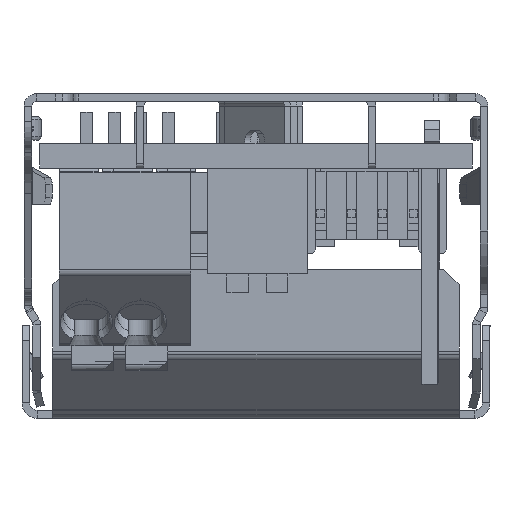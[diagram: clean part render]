
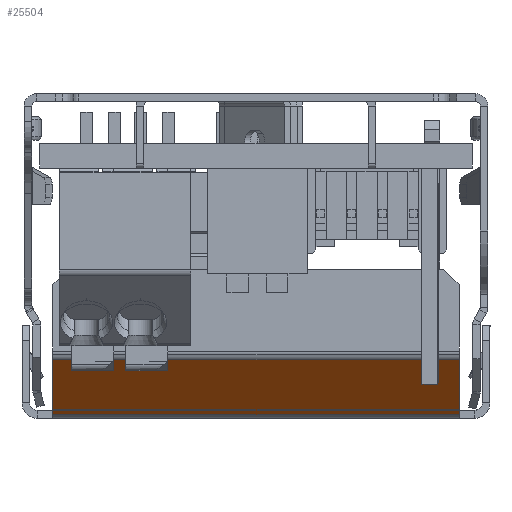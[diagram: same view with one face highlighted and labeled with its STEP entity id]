
A CAD part, left-side view. The second image highlights one B-rep face of the part: STEP entity #25504.
In plain terms, the highlighted planar face has unit normal (-0.707, 0, -0.707).
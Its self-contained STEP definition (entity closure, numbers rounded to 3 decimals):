
#642 = DIRECTION ( 'NONE',  ( 0.707, 0., -0.707 ) ) ;
#1031 = CARTESIAN_POINT ( 'NONE',  ( -1.022, -324.625, 205.029 ) ) ;
#3216 = CARTESIAN_POINT ( 'NONE',  ( -31.698, -72.901, 235.706 ) ) ;
#3254 = VERTEX_POINT ( 'NONE', #8812 ) ;
#4278 = VERTEX_POINT ( 'NONE', #32470 ) ;
#4680 = DIRECTION ( 'NONE',  ( 0.707, 0., -0.707 ) ) ;
#5212 = CARTESIAN_POINT ( 'NONE',  ( -31.698, -324.625, 235.706 ) ) ;
#5832 = FACE_OUTER_BOUND ( 'NONE', #9235, .T. ) ;
#7362 = VECTOR ( 'NONE', #642, 1000. ) ;
#7818 = VERTEX_POINT ( 'NONE', #32197 ) ;
#8406 = DIRECTION ( 'NONE',  ( 0.707, 0., 0.707 ) ) ;
#8610 = CARTESIAN_POINT ( 'NONE',  ( -1.022, -72.901, 205.029 ) ) ;
#8812 = CARTESIAN_POINT ( 'NONE',  ( -4.575, -72.901, 208.583 ) ) ;
#9235 = EDGE_LOOP ( 'NONE', ( #19417, #31481, #37924, #29951 ) ) ;
#10562 = VECTOR ( 'NONE', #14002, 1000. ) ;
#14002 = DIRECTION ( 'NONE',  ( 0., 1., 0. ) ) ;
#15200 = PLANE ( 'NONE',  #28237 ) ;
#16081 = EDGE_CURVE ( 'NONE', #4278, #3254, #24252, .T. ) ;
#18056 = DIRECTION ( 'NONE',  ( 0., 1., 0. ) ) ;
#18379 = DIRECTION ( 'NONE',  ( 0.707, 0., -0.707 ) ) ;
#19417 = ORIENTED_EDGE ( 'NONE', *, *, #26521, .F. ) ;
#21064 = CARTESIAN_POINT ( 'NONE',  ( -31.698, -99.172, 235.706 ) ) ;
#23005 = LINE ( 'NONE', #3216, #7362 ) ;
#24252 = LINE ( 'NONE', #25077, #32804 ) ;
#25077 = CARTESIAN_POINT ( 'NONE',  ( -4.575, -324.625, 208.583 ) ) ;
#25504 = ADVANCED_FACE ( 'NONE', ( #5832 ), #15200, .F. ) ;
#26521 = EDGE_CURVE ( 'NONE', #7818, #33507, #36996, .T. ) ;
#28237 = AXIS2_PLACEMENT_3D ( 'NONE', #5212, #8406, #18379 ) ;
#29774 = VECTOR ( 'NONE', #4680, 1000. ) ;
#29783 = EDGE_CURVE ( 'NONE', #3254, #33507, #23005, .T. ) ;
#29951 = ORIENTED_EDGE ( 'NONE', *, *, #29783, .T. ) ;
#30867 = LINE ( 'NONE', #21064, #29774 ) ;
#31259 = EDGE_CURVE ( 'NONE', #4278, #7818, #30867, .T. ) ;
#31481 = ORIENTED_EDGE ( 'NONE', *, *, #31259, .F. ) ;
#32197 = CARTESIAN_POINT ( 'NONE',  ( -1.022, -99.172, 205.029 ) ) ;
#32470 = CARTESIAN_POINT ( 'NONE',  ( -4.575, -99.172, 208.583 ) ) ;
#32804 = VECTOR ( 'NONE', #18056, 1000. ) ;
#33507 = VERTEX_POINT ( 'NONE', #8610 ) ;
#36996 = LINE ( 'NONE', #1031, #10562 ) ;
#37924 = ORIENTED_EDGE ( 'NONE', *, *, #16081, .T. ) ;
